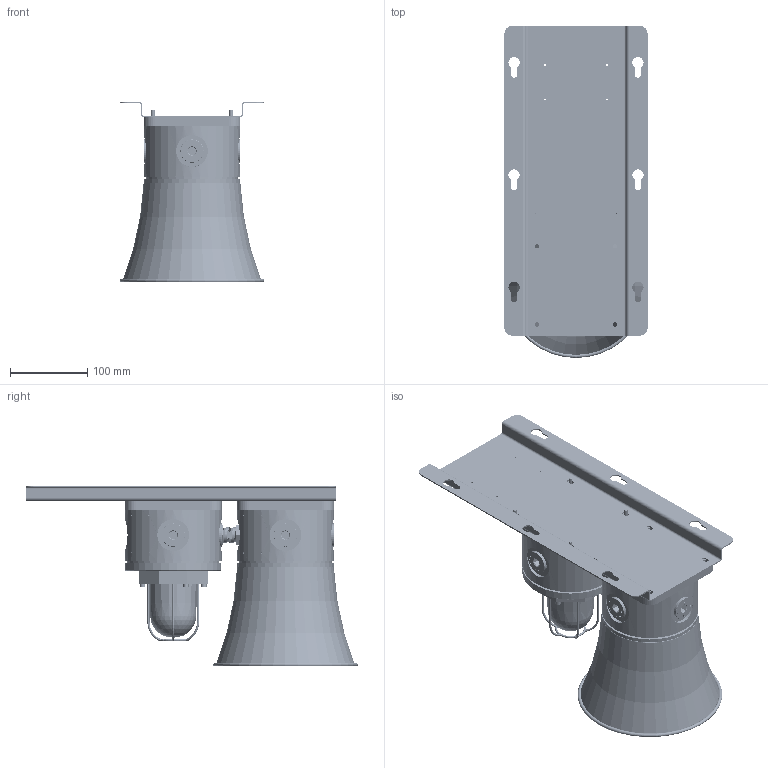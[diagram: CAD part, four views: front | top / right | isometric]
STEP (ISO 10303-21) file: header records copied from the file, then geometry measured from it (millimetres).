
FILE_DESCRIPTION((''),'2;1');
FILE_NAME('0-SB125-TYP2_ASM','2015-12-21T',('Administrator'),(''),'PRO/ENGINEER BY PARAMETRIC TECHNOLOGY CORPORATION, 2008090','PRO/ENGINEER BY PARAMETRIC TECHNOLOGY CORPORATION, 2008090','');
FILE_SCHEMA(('CONFIG_CONTROL_DESIGN'));
Length unit declared in the file: millimetre
Products named in the file (47): 50020110264; 55060110101; 55050110103; 50050180237; 50050140504; 50050150505; CG; HS; 50050150506; MQ; 50050150501; 55050110108; 50050110507; 0-55050100620_ASM; 50050110106; 50050110105; M4-10; 50050110104; 50050110216; 55100110920; 50070150601; 50070120605; PCB-SD125-W_ASM; 0-SD125-SOUNDER-W_ASM; 55020110203; LINE-9; 51872010006; 50020110207; 0-CT20_ASM; 50000010101; 50020110229; 55060110102; 50060110110; 50060110109; 55060170107; 50060111202; 55060110108; 50060111201; GTS5; 50000010301-M5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
Assembly tree (78 placements, depth 4):
  0-SB125-TYP2_ASM
    50020110264
    0-SD125-SOUNDER-W_ASM
      55060110101
      55050110103
      50050180237
      0-55050100620_ASM
        50050140504
        50050150505
        CG
        HS
        50050150506
        MQ
        50050150501
        55050110108
        50050110507
      50050110106
      50050110105
      M4-10  x3
      50050110104
      50050110216  x4
      55100110920  x3
      PCB-SD125-W_ASM
        50070150601
        50070120605
    0-CT20_ASM
      55020110203
      LINE-9
      51872010006  x2
      50020110207  x2
    50000010101
    50020110229
    0-BC125_ASM
      55060110101
      55060110102
      50060110110
      50060110109
      55060170107
      50060111202
      55060110108
      50060111201
      GTS5  x8
      50000010301-M5  x4
      M4-10  x4
      50050180237
      50060100612
      TERMIAL-BASE_ASM
        50060120205
        TERMINAL-WDML
      55100110920  x3
    55060170107
    M5-15-ALL  x4
Bounding box: 187 x 428.5 x 233.8 mm (x, y, z)
Volume: 1863408.5 mm3; surface area: 1051151.1 mm2
Topology: 83 solids, 180 shells, 11824 faces, 31813 edges, 20791 vertices
Faces by surface type: plane 8717, cylinder 1552, cone 548, bspline 471, sphere 298, torus 238
Entity records: 162713 total; most frequent: CARTESIAN_POINT 52368, ORIENTED_EDGE 23034, DIRECTION 21875, EDGE_CURVE 11627, VECTOR 7797, LINE 7797, VERTEX_POINT 7561, AXIS2_PLACEMENT_3D 7039
